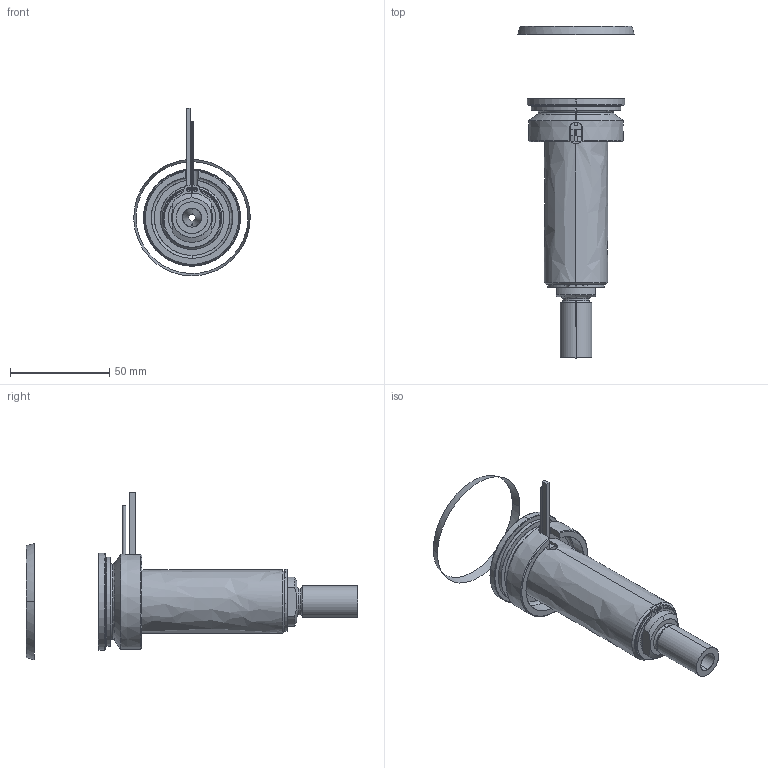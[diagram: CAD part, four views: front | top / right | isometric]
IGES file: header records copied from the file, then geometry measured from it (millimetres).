
Start section: SolidWorks IGES file using analytic representation for surfaces
Global section: file name: C:\Documents and Settings\ws-20\Desktop\TEMPORANEA\UGBE5002-S-A-P-5 [Ød-3.5 P-25 ØC-12].IGS; native system: SolidWorks 2012; preprocessor: SolidWorks 2012; author: ws-20; date: 120306.145341; units: millimetre
Bounding box: 58.79 x 167.44 x 84.69 mm (x, y, z)
Surface area: 43377.4 mm2 (no closed solid volume)
Topology: 0 solids, 0 shells, 112 faces, 2168 edges, 2168 vertices
Faces by surface type: revolution 67, bspline 45
